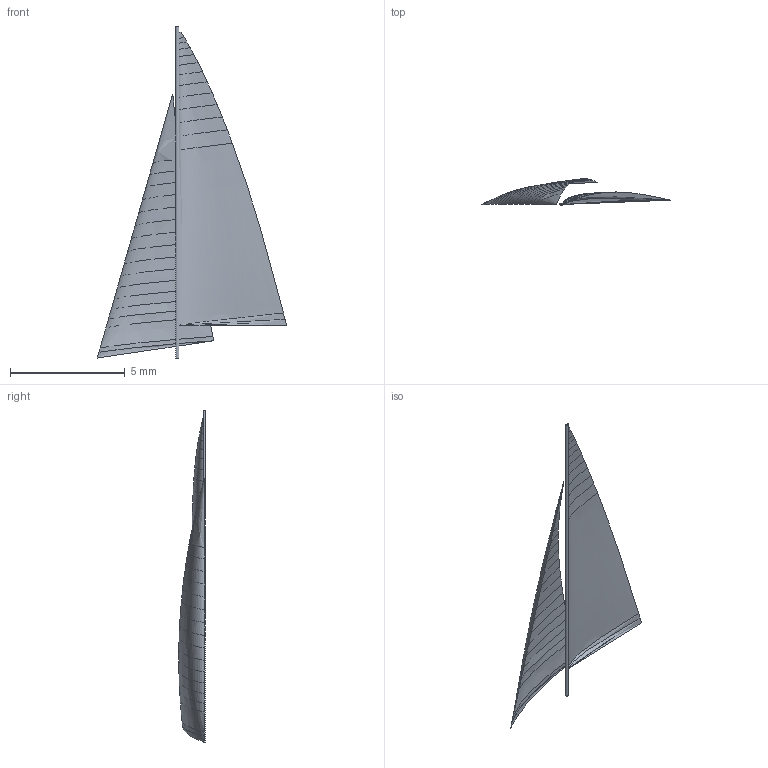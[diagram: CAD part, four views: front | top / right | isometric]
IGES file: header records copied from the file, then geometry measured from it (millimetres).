
Global section: file name: C:\Users\Uli\Desktop\UliSail\UliSail_3.5\D33.igs; native system: Rhinoceros ( May 22 2017 ); preprocessor: Trout Lake IGES 012 May 22 2017; date: 240915.171849; units: millimetre
Bounding box: 8.25 x 1.15 x 14.46 mm (x, y, z)
Surface area: 71 mm2 (no closed solid volume)
Topology: 0 solids, 0 shells, 35 faces, 215 edges, 285 vertices
Faces by surface type: bspline 35
